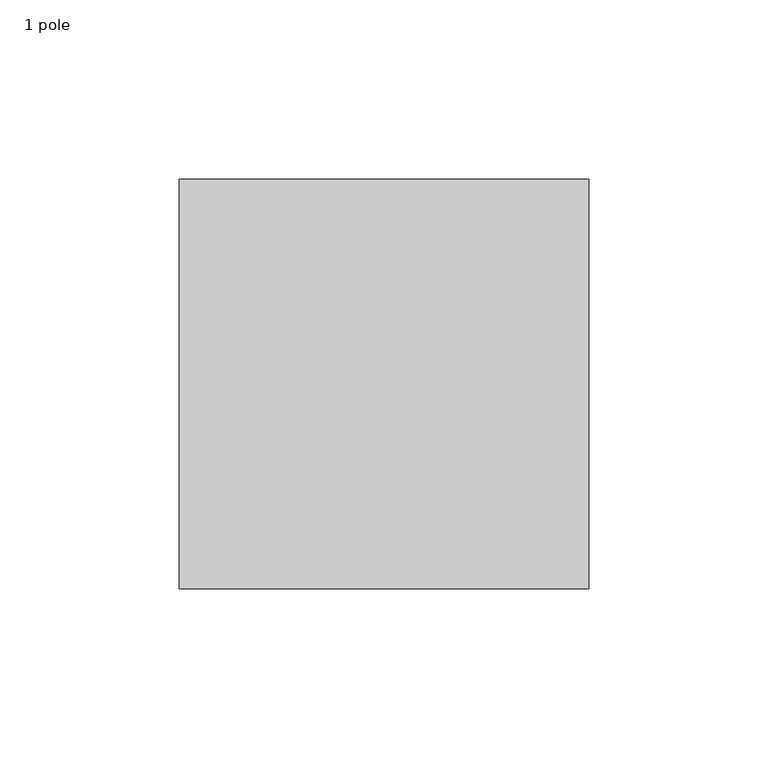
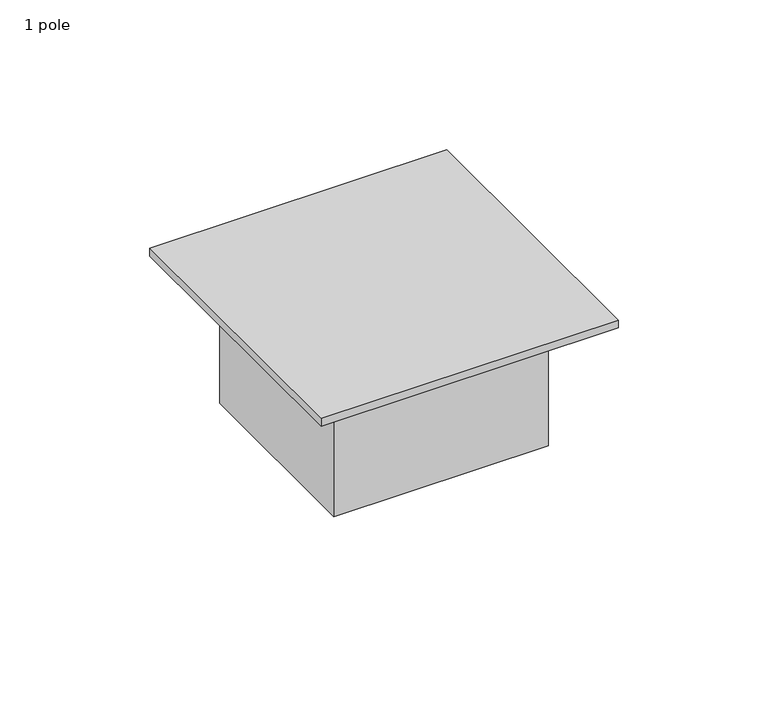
"""IFC4 building model written with IfcOpenShell, lengths in millimetres: switching device geometry, BA_EF - Lighting Switch : 1 pole."""

import ifcopenshell
import ifcopenshell.guid

model = None  # the IFC model being written
_history = None  # IfcOwnerHistory: only IFC2X3 demands one
_inside = {}  # id of a spatial element -> (the spatial element, [elements in it])
_under = {}  # id of a project, library or spatial element -> (it, [spatial elements below it])
_declared = {}  # id of a project -> (the project, [libraries it declares])
_typed = {}  # id of a type object -> (the type object, [elements of that type])
_made_of = {}  # id of a material, layer set ... -> (it, [elements and type objects made of it])


def new_model(schema):
    """Start an empty IFC model of exactly this schema.

    Asked for "IFC4X3", IfcOpenShell would pick the latest addendum, in which some entities
    have other attributes; the version numbers below select the first issue.
    IFC2X3 requires an IfcOwnerHistory on every rooted entity: one is made here for all.
    """
    global model, _history
    if schema == "IFC4X3":
        model = ifcopenshell.file(schema_version=(4, 3, 0, 0))
    else:
        model = ifcopenshell.file(schema=schema)
    _inside.clear()
    _under.clear()
    _declared.clear()
    _typed.clear()
    _made_of.clear()
    _history = None
    if model.schema == "IFC2X3":
        org = make("IfcOrganization", Name="unknown")
        user = make(
            "IfcPersonAndOrganization",
            ThePerson=make("IfcPerson", FamilyName="unknown"),
            TheOrganization=org,
        )
        app = make(
            "IfcApplication",
            ApplicationDeveloper=org,
            Version="unknown",
            ApplicationFullName="unknown",
            ApplicationIdentifier="unknown",
        )
        _history = make(
            "IfcOwnerHistory",
            OwningUser=user,
            OwningApplication=app,
            ChangeAction="ADDED",
            CreationDate=0,
        )
    return model


def make(cls, **values):
    """One entity of the class cls with the attributes given. An attribute that is None is left unset."""
    return model.create_entity(
        cls, **{name: value for name, value in values.items() if value is not None}
    )


def rooted(cls, **values):
    """An entity with a GlobalId (a new one), such as an element, a storey or a relation."""
    return make(cls, GlobalId=ifcopenshell.guid.new(), OwnerHistory=_history, **values)


def si_unit(unit_type, name, prefix=None):
    """IfcSIUnit, for example si_unit("LENGTHUNIT", "METRE", prefix="MILLI")."""
    return make("IfcSIUnit", UnitType=unit_type, Prefix=prefix, Name=name)


def assignment(units):
    """IfcUnitAssignment: the units of a project."""
    return None if units is None else make("IfcUnitAssignment", Units=units)


def point(xyz):
    """IfcCartesianPoint."""
    return None if xyz is None else make("IfcCartesianPoint", Coordinates=xyz)


def direction(xyz):
    """IfcDirection."""
    return None if xyz is None else make("IfcDirection", DirectionRatios=xyz)


def frame(location, z_axis=None, x_axis=None):
    """IfcAxis2Placement3D, a coordinate frame: its origin and axes. An axis left out is left unset."""
    return make(
        "IfcAxis2Placement3D",
        Location=point(location),
        Axis=direction(z_axis),
        RefDirection=direction(x_axis),
    )


def origin():
    """The frame at (0, 0, 0) with its axes left unset."""
    return frame((0.0, 0.0, 0.0))


def origin_with_axes():
    """The frame at (0, 0, 0) with the z axis (0, 0, 1) and the x axis (1, 0, 0) written out."""
    return frame((0.0, 0.0, 0.0), z_axis=(0.0, 0.0, 1.0), x_axis=(1.0, 0.0, 0.0))


def place(relative_to, where):
    """IfcLocalPlacement: puts the frame where relative to a parent placement (None: the world)."""
    return make(
        "IfcLocalPlacement", PlacementRelTo=relative_to, RelativePlacement=where
    )


def context(
    kind, dimensions, precision=None, world=None, true_north=None, identifier=None
):
    """IfcGeometricRepresentationContext, for example the 3D "Model" context."""
    return make(
        "IfcGeometricRepresentationContext",
        ContextIdentifier=identifier,
        ContextType=kind,
        CoordinateSpaceDimension=dimensions,
        Precision=precision,
        WorldCoordinateSystem=world,
        TrueNorth=true_north,
    )


def project(units=None, contexts=None):
    """IfcProject with its units and contexts."""
    return rooted(
        "IfcProject",
        Name="project",
        RepresentationContexts=contexts,
        UnitsInContext=assignment(units),
    )


def spatial(cls, under=None, at=None, **own):
    """A site, building, storey or space (cls), placed at a placement, below another one or the project."""
    s = rooted(cls, ObjectPlacement=at, **own)
    if under is not None:
        _under.setdefault(under.id(), (under, []))[1].append(s)
    return s


def polyline(points):
    """IfcPolyline through the points."""
    return make("IfcPolyline", Points=[point(p) for p in points])


def outline(outer, holes=None, kind="AREA"):
    """IfcArbitraryClosedProfileDef: a profile drawn as a closed curve; with holes, ...WithVoids."""
    if holes is None:
        return make("IfcArbitraryClosedProfileDef", ProfileType=kind, OuterCurve=outer)
    return make(
        "IfcArbitraryProfileDefWithVoids",
        ProfileType=kind,
        OuterCurve=outer,
        InnerCurves=holes,
    )


def extrude(swept, where, along, depth):
    """IfcExtrudedAreaSolid: the profile swept, set in the frame where, extruded along a direction by depth."""
    return make(
        "IfcExtrudedAreaSolid",
        SweptArea=swept,
        Position=where,
        ExtrudedDirection=direction(along),
        Depth=depth,
    )


def shape(context_of_items, identifier, shape_type, items):
    """IfcShapeRepresentation: the items that make up one representation, for example the "Body"."""
    return make(
        "IfcShapeRepresentation",
        ContextOfItems=context_of_items,
        RepresentationIdentifier=identifier,
        RepresentationType=shape_type,
        Items=items,
    )


def source(mapping_origin, context_of_items, identifier, shape_type, items):
    """IfcRepresentationMap: a shape defined once, which mapped items show again and again."""
    return make(
        "IfcRepresentationMap",
        MappingOrigin=mapping_origin,
        MappedRepresentation=shape(context_of_items, identifier, shape_type, items),
    )


def transform(
    local_origin,
    x_axis=None,
    y_axis=None,
    z_axis=None,
    scale=None,
    scale2=None,
    scale3=None,
    uniform=True,
):
    """IfcCartesianTransformationOperator3D, or its non-uniform kind. x_axis, y_axis, z_axis: its Axis1, 2, 3."""
    if uniform:
        return make(
            "IfcCartesianTransformationOperator3D",
            Axis1=direction(x_axis),
            Axis2=direction(y_axis),
            LocalOrigin=point(local_origin),
            Scale=scale,
            Axis3=direction(z_axis),
        )
    return make(
        "IfcCartesianTransformationOperator3DnonUniform",
        Axis1=direction(x_axis),
        Axis2=direction(y_axis),
        LocalOrigin=point(local_origin),
        Scale=scale,
        Axis3=direction(z_axis),
        Scale2=scale2,
        Scale3=scale3,
    )


def mapped(mapping_source, mapping_target):
    """IfcMappedItem: shows the shape of a source again, moved by a transform."""
    return make(
        "IfcMappedItem", MappingSource=mapping_source, MappingTarget=mapping_target
    )


def made_of(thing, what):
    """Note that an element or type object is made of a material, layer set ...; save() writes the relation."""
    if what is not None:
        _made_of.setdefault(what.id(), (what, []))[1].append(thing)
    return thing


def element(
    cls,
    number,
    at=None,
    inside=None,
    cuts=None,
    type_object=None,
    material=None,
    context=None,
    identifier="Body",
    shape_type=None,
    held_by="IfcProductDefinitionShape",
    body=None,
    shapes=None,
    **own,
):
    """One element of the class cls, such as IfcWall. Its Tag is "e" and its number.

    at: its placement. inside: the storey or other place that contains it. cuts: it is an
    opening in that element (IfcRelVoidsElement). A single representation is given by context,
    identifier, shape_type and body (its items); several are given by shapes. held_by: the class
    of the entity that holds the representations. save() writes the other relations.
    """
    e = rooted(cls, Tag="e%d" % number, ObjectPlacement=at, **own)
    if body is not None:
        shapes = [shape(context, identifier, shape_type, body)]
    if shapes is not None:
        e.Representation = make(held_by, Representations=shapes)
    if inside is not None:
        _inside.setdefault(inside.id(), (inside, []))[1].append(e)
    if cuts is not None:
        rooted(
            "IfcRelVoidsElement", RelatingBuildingElement=cuts, RelatedOpeningElement=e
        )
    if type_object is not None:
        _typed.setdefault(type_object.id(), (type_object, []))[1].append(e)
    return made_of(e, material)


def aggregate(whole, parts):
    """IfcRelAggregates: a whole, such as a stair, and the parts it consists of."""
    return rooted("IfcRelAggregates", RelatingObject=whole, RelatedObjects=parts)


def save(model, path):
    """Write the relations noted so far, then the file.

    IfcRelAggregates (storeys below a building ...), IfcRelContainedInSpatialStructure (elements
    in a storey), IfcRelDefinesByType, IfcRelAssociatesMaterial and IfcRelDeclares: one each for
    every whole, place, type object, material and project.
    """
    for whole, parts in _under.values():
        aggregate(whole, parts)
    for where, things in _inside.values():
        rooted(
            "IfcRelContainedInSpatialStructure",
            RelatedElements=things,
            RelatingStructure=where,
        )
    for kind, things in _typed.values():
        rooted("IfcRelDefinesByType", RelatedObjects=things, RelatingType=kind)
    for what, things in _made_of.values():
        rooted("IfcRelAssociatesMaterial", RelatedObjects=things, RelatingMaterial=what)
    for by, libraries in _declared.values():
        rooted("IfcRelDeclares", RelatingContext=by, RelatedDefinitions=libraries)
    model.write(path)


def switching_device_1_pole_3dda4a21(model_context):
    return source(origin(), model_context, "Body", "SweptSolid", [
        extrude(outline(polyline([(41.275, 1257.3), (41.275, 1181.1), (-41.275, 1181.1), (-41.275, 1257.3), (41.275, 1257.3)])), frame((0.0, 0.0, -53.975), z_axis=(0.0, 0.0, 1.0), x_axis=(1.0, 0.0, 0.0)), (0.0, 0.0, 1.0), 50.8),
        extrude(outline(polyline([(57.15, 1276.35), (57.15, 1162.05), (-57.15, 1162.05), (-57.15, 1276.35), (57.15, 1276.35)])), origin_with_axes(), (0.0, 0.0, 1.0), 3.175),
    ])


if __name__ == "__main__":
    model = new_model("IFC4")
    model_context = context("Model", 3, world=origin())
    ifc_project = project(units=[si_unit("LENGTHUNIT", "METRE", prefix="MILLI")], contexts=[model_context])
    site = spatial("IfcSite", under=ifc_project)
    building = spatial("IfcBuilding", under=site)
    placement = place(None, origin())
    switching_device_1_pole_shape = switching_device_1_pole_3dda4a21(model_context)
    element("IfcSwitchingDevice", 1, ObjectType="BA_EF - Lighting Switch : 1 pole", at=placement, inside=building, context=model_context, shape_type="MappedRepresentation", body=[
        mapped(switching_device_1_pole_shape, transform((0.0, 0.0, 0.0), x_axis=(1.0, 0.0, 0.0), y_axis=(0.0, 1.0, 0.0), z_axis=(0.0, 0.0, 1.0))),
    ])
    save(model, "model.ifc")
